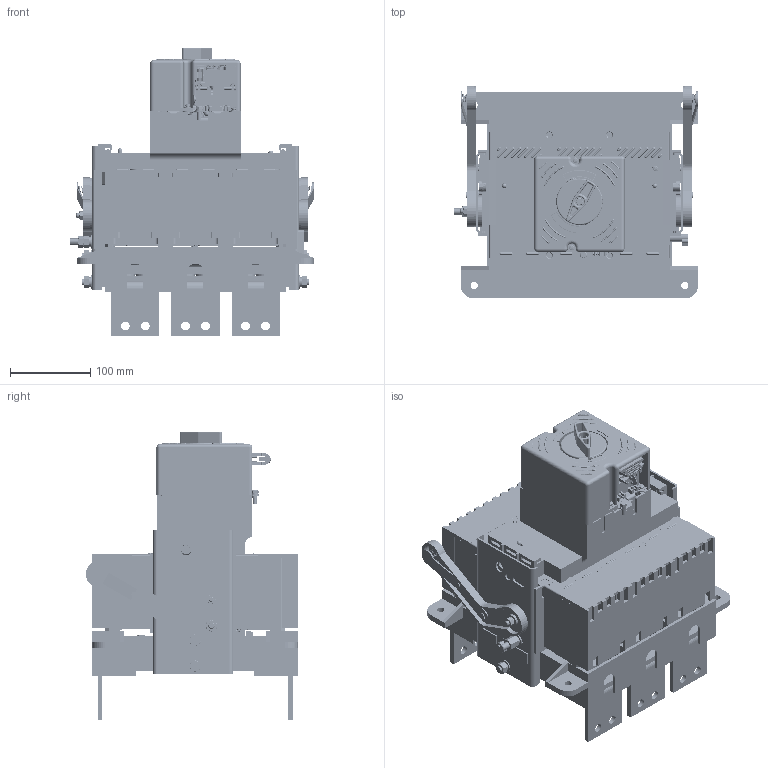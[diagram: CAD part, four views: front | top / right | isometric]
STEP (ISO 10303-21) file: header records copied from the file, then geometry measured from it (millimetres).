
FILE_DESCRIPTION (( 'STEP AP203' ), '1' );
FILE_NAME ('臍57-39 桽桽70.STEP', '2016-09-30T08:22:46', ( 'admin' ), ( '' ), 'SwSTEP 2.0', 'SolidWorks 2012', '' );
FILE_SCHEMA (( 'CONFIG_CONTROL_DESIGN' ));
Products named in the file (1): 臍57-39 桽桽70
Bounding box: 304.6 x 264.99 x 360.35 mm (x, y, z)
Volume: 6226072.4 mm3; surface area: 1692795.2 mm2
Topology: 142 solids, 146 shells, 8485 faces, 22318 edges, 14273 vertices
Faces by surface type: plane 4484, cylinder 2777, torus 428, bspline 324, cone 288, sphere 184
Entity records: 293383 total; most frequent: CARTESIAN_POINT 80856, ORIENTED_EDGE 44472, DIRECTION 44242, EDGE_CURVE 22236, AXIS2_PLACEMENT_3D 15130, VERTEX_POINT 14269, VECTOR 13982, LINE 13982
